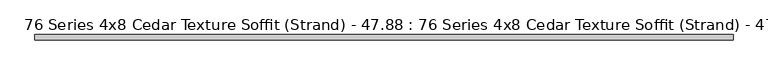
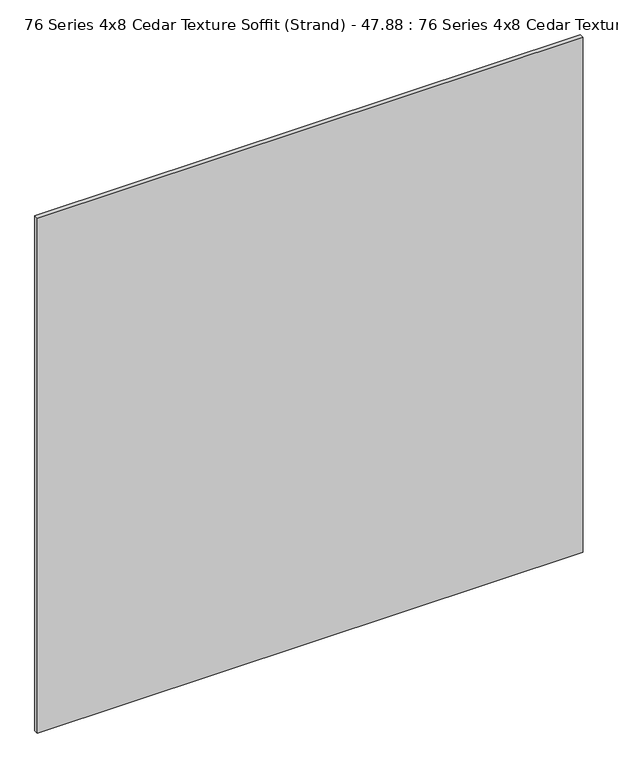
"""IFC4 building model written with IfcOpenShell, lengths in millimetres: proxy geometry, 76 Series 4x8 Cedar Texture Soffit (Strand) - 47.88 : 76 Series 4x8 Cedar Texture Soffit (Strand) - 47.88."""

from ifc_helpers import new_model, si_unit, frame, origin, place, context, project, spatial, polyline, outline, extrude, source, transform, mapped, element, save


def proxy_76_series_4x8_cedar_texture_soffit_strand_47_88_76_78291a79(model_context):
    return source(origin(), model_context, "Body", "SweptSolid", [
        extrude(outline(polyline([(1219.2, -9.525), (0.0, -9.525), (0.0, 0.0), (1219.2, 0.0), (1219.2, -9.525)])), frame((0.0, 0.0, -1216.152), z_axis=(0.0, 0.0, 1.0), x_axis=(1.0, 0.0, 0.0)), (0.0, 0.0, 1.0), 1216.152),
    ])


if __name__ == "__main__":
    model = new_model("IFC4")
    model_context = context("Model", 3, world=origin())
    ifc_project = project(units=[si_unit("LENGTHUNIT", "METRE", prefix="MILLI")], contexts=[model_context])
    site = spatial("IfcSite", under=ifc_project)
    building = spatial("IfcBuilding", under=site)
    placement = place(None, origin())
    proxy_76_series_4x8_cedar_texture_soffit_strand_47_88_76_shape = proxy_76_series_4x8_cedar_texture_soffit_strand_47_88_76_78291a79(model_context)
    element("IfcBuildingElementProxy", 1, Name="76 Series 4x8 Cedar Texture Soffit (Strand) - 47.88 : 76 Series 4x8 Cedar Texture Soffit (Strand) - 47.88", ObjectType="76 Series 4x8 Cedar Texture Soffit (Strand) - 47.88 : 76 Series 4x8 Cedar Texture Soffit (Strand) - 47.88", at=placement, inside=building, context=model_context, shape_type="MappedRepresentation", body=[
        mapped(proxy_76_series_4x8_cedar_texture_soffit_strand_47_88_76_shape, transform((0.0, 0.0, 0.0), x_axis=(1.0, 0.0, 0.0), y_axis=(0.0, 1.0, 0.0), z_axis=(0.0, 0.0, 1.0))),
    ])
    save(model, "model.ifc")
